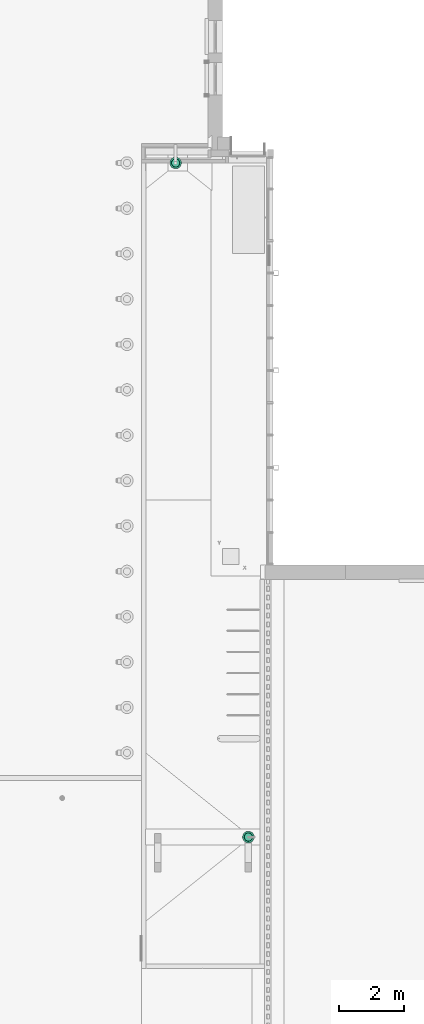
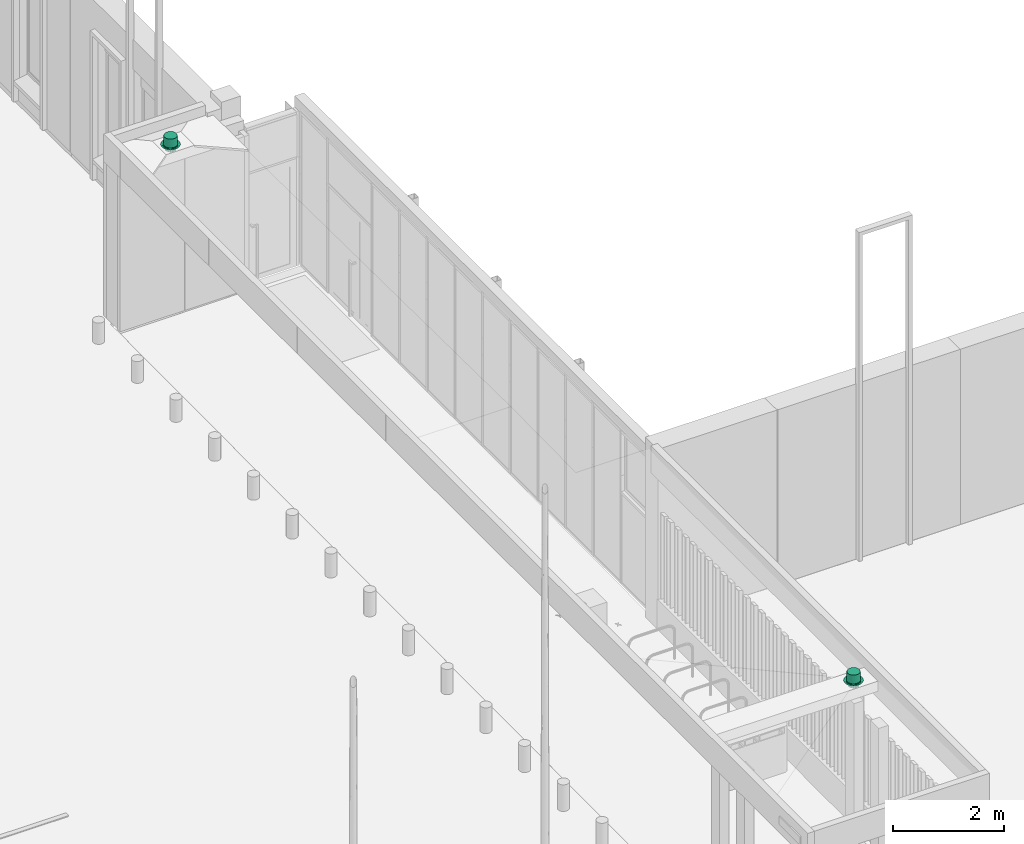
# One storey, part 74 of 77: 2 flow terminals.
"""IFC2X3 building model written with IfcOpenShell, lengths in millimetres."""

from ifc_helpers import new_model, entity, si_unit, converted_unit, derived_unit, direction, frame, origin, place, context, subcontext, project, spatial, faceted_brep, source, transform, mapped, material, material_list, element, save


model = new_model("IFC2X3")

# Units and contexts
model_context = context("Model", 3, precision=0.01, world=origin(), true_north=direction((6.12303176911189e-17, 1.0)))
body_context = subcontext(model_context, "Body", "Model", "MODEL_VIEW")
ifc_project = project(units=[si_unit("LENGTHUNIT", "METRE", prefix="MILLI"), si_unit("AREAUNIT", "SQUARE_METRE"), si_unit("VOLUMEUNIT", "CUBIC_METRE"), converted_unit("PLANEANGLEUNIT", "DEGREE", entity("IfcRatioMeasure", 0.0174532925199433), si_unit("PLANEANGLEUNIT", "RADIAN"), dimensions=[0, 0, 0, 0, 0, 0, 0]), si_unit("MASSUNIT", "GRAM", prefix="KILO"), derived_unit("MASSDENSITYUNIT", [(si_unit("MASSUNIT", "GRAM", prefix="KILO"), 1), (si_unit("LENGTHUNIT", "METRE"), -3)]), si_unit("TIMEUNIT", "SECOND"), si_unit("FREQUENCYUNIT", "HERTZ"), si_unit("THERMODYNAMICTEMPERATUREUNIT", "DEGREE_CELSIUS"), derived_unit("THERMALTRANSMITTANCEUNIT", [(si_unit("MASSUNIT", "GRAM", prefix="KILO"), 1), (si_unit("THERMODYNAMICTEMPERATUREUNIT", "KELVIN"), -1), (si_unit("TIMEUNIT", "SECOND"), -3)]), derived_unit("VOLUMETRICFLOWRATEUNIT", [(si_unit("LENGTHUNIT", "METRE"), 3), (si_unit("TIMEUNIT", "SECOND"), -1)]), si_unit("ELECTRICCURRENTUNIT", "AMPERE"), si_unit("ELECTRICVOLTAGEUNIT", "VOLT"), si_unit("POWERUNIT", "WATT"), si_unit("FORCEUNIT", "NEWTON", prefix="KILO"), si_unit("ILLUMINANCEUNIT", "LUX"), si_unit("LUMINOUSFLUXUNIT", "LUMEN"), si_unit("LUMINOUSINTENSITYUNIT", "CANDELA"), derived_unit("USERDEFINED", [(si_unit("MASSUNIT", "GRAM", prefix="KILO"), -1), (si_unit("LENGTHUNIT", "METRE"), -2), (si_unit("TIMEUNIT", "SECOND"), 3), (si_unit("LUMINOUSFLUXUNIT", "LUMEN"), 1)]), derived_unit("LINEARVELOCITYUNIT", [(si_unit("LENGTHUNIT", "METRE"), 1), (si_unit("TIMEUNIT", "SECOND"), -1)]), si_unit("PRESSUREUNIT", "PASCAL"), derived_unit("USERDEFINED", [(si_unit("LENGTHUNIT", "METRE"), -2), (si_unit("MASSUNIT", "GRAM", prefix="KILO"), 1), (si_unit("TIMEUNIT", "SECOND"), -2)])], contexts=[model_context])

# Site, building, storey
site_placement = place(None, origin())
site = spatial("IfcSite", under=ifc_project, at=site_placement, Name="Default", CompositionType="ELEMENT")
building_placement = place(site_placement, origin())
building = spatial("IfcBuilding", under=site, at=building_placement, CompositionType="ELEMENT")
storey_placement = place(building_placement, origin())
storey = spatial("IfcBuildingStorey", under=building, at=storey_placement, Name="1. KORRUS", CompositionType="ELEMENT", Elevation=0.0)

# Flow terminals
ifc_material_1 = material(Name="Platic-WATTS_Polyethylene")
ifc_material_2 = material(Name="Metal-WATTS-Cast Iron")
ifc_material_list_1 = material_list([ifc_material_1, ifc_material_2])
shared_shape = source(origin(), body_context, "Body", "Brep", [
    faceted_brep([(95.1434063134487, 109.801344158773, 0.0), (122.224043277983, 78.5486230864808, 0.0), (0.0, 0.0, 0.0), (60.3548164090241, 132.158613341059, 0.0), (139.402815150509, 40.9323597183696, 0.0), (145.288000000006, 0.0, 0.0), (139.40281515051, -40.9323597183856, 0.0), (122.224043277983, -78.5486230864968, 0.0), (95.1434063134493, -109.80134415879, 0.0), (60.3548164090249, -132.158613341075, 0.0), (20.676638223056, -143.809177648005, 0.0), (-20.6766382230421, -143.809177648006, 0.0), (-60.3548164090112, -132.158613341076, 0.0), (-95.1434063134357, -109.80134415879, 0.0), (-122.22404327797, -78.548623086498, 0.0), (-139.402815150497, -40.9323597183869, 0.0), (-145.287999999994, 0.0, 0.0), (-139.402815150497, 40.9323597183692, 0.0), (-122.22404327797, 78.5486230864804, 0.0), (-95.1434063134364, 109.801344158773, 0.0), (-60.354816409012, 132.158613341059, 0.0), (-20.676638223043, 143.809177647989, 0.0), (20.6766382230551, 143.809177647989, 0.0), (117.160652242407, 38.0678035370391, 193.64960000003), (0.0, 0.0, 193.649600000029), (123.190000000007, 0.0, 193.649600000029), (99.6628035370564, 72.4092652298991, 193.64960000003), (72.4092652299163, 99.6628035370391, 193.64960000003), (38.0678035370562, 117.160652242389, 193.649600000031), (0.0, 123.189999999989, 193.649600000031), (-38.0678035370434, 117.160652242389, 193.649600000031), (-72.4092652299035, 99.6628035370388, 193.649600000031), (-99.6628035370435, 72.4092652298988, 193.64960000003), (-117.160652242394, 38.0678035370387, 193.64960000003), (-123.189999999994, 0.0, 193.649600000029), (-117.160652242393, -38.0678035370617, 193.649600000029), (-99.662803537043, -72.4092652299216, 193.649600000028), (-72.4092652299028, -99.6628035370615, 193.649600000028), (-38.0678035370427, -117.160652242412, 193.649600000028), (0.0, -123.190000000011, 193.649600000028), (38.067803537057, -117.160652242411, 193.649600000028), (72.4092652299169, -99.6628035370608, 193.649600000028), (99.6628035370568, -72.4092652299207, 193.649600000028), (117.160652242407, -38.0678035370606, 193.649600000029), (-126.2424095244, 37.068115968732, 7.9248000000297), (-86.1613364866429, 99.4354829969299, 7.9248000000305), (-54.6569840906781, 119.682100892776, 7.92480000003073), (-110.685409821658, 71.1331936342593, 7.92480000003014), (-131.571999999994, 0.0, 7.92480000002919), (-18.7246479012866, 130.23278675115, 7.92480000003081), (18.7246479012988, 130.23278675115, 7.92480000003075), (54.6569840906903, 119.682100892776, 7.92480000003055), (110.68540982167, 71.1331936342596, 7.92480000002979), (86.1613364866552, 99.4354829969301, 7.92480000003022), (126.242409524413, 37.0681159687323, 7.92480000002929), (131.572000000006, 0.0, 7.92480000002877), (126.242409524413, -37.0681159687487, 7.92480000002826), (86.1613364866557, -99.4354829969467, 7.92480000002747), (110.685409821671, -71.1331936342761, 7.92480000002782), (54.656984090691, -119.682100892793, 7.92480000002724), (18.7246479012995, -130.232786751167, 7.92480000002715), (-18.7246479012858, -130.232786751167, 7.92480000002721), (-54.6569840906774, -119.682100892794, 7.92480000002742), (-110.685409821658, -71.133193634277, 7.92480000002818), (-86.1613364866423, -99.4354829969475, 7.92480000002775), (-126.2424095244, -37.0681159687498, 7.92480000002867), (139.402815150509, 40.9323597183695, 7.92480000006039), (145.288000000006, 0.0, 7.92480000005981), (122.224043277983, 78.5486230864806, 7.92480000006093), (95.1434063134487, 109.801344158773, 7.92480000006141), (60.3548164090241, 132.158613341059, 7.92480000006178), (20.6766382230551, 143.809177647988, 7.924800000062), (-20.676638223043, 143.809177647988, 7.92480000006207), (-60.354816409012, 132.158613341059, 7.92480000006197), (-95.1434063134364, 109.801344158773, 7.92480000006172), (-122.22404327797, 78.5486230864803, 7.92480000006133), (-139.402815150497, 40.9323597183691, 7.92480000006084), (-145.287999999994, 0.0, 7.92480000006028), (-139.402815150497, -40.932359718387, 7.92480000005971), (-122.22404327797, -78.5486230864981, 7.92480000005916), (-95.1434063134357, -109.801344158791, 7.92480000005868), (-60.3548164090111, -132.158613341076, 7.92480000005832), (-20.6766382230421, -143.809177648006, 7.92480000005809), (20.676638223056, -143.809177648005, 7.92480000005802), (60.354816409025, -132.158613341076, 7.92480000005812), (95.1434063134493, -109.80134415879, 7.92480000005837), (122.224043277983, -78.548623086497, 7.92480000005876), (139.40281515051, -40.9323597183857, 7.92480000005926)], [[[0, 1, 2]], [[0, 2, 3]], [[4, 2, 1]], [[2, 4, 5]], [[5, 6, 2]], [[2, 6, 7]], [[2, 7, 8]], [[2, 8, 9]], [[9, 10, 2]], [[11, 2, 10]], [[2, 11, 12]], [[2, 12, 13]], [[14, 2, 13]], [[2, 14, 15]], [[15, 16, 2]], [[2, 16, 17]], [[2, 17, 18]], [[18, 19, 2]], [[19, 20, 2]], [[21, 2, 20]], [[2, 21, 22]], [[22, 3, 2]], [[23, 24, 25]], [[26, 24, 23]], [[26, 27, 24]], [[28, 24, 27]], [[28, 29, 24]], [[24, 29, 30]], [[30, 31, 24]], [[24, 31, 32]], [[32, 33, 24]], [[33, 34, 24]], [[34, 35, 24]], [[36, 24, 35]], [[36, 37, 24]], [[37, 38, 24]], [[39, 24, 38]], [[24, 39, 40]], [[40, 41, 24]], [[41, 42, 24]], [[42, 43, 24]], [[24, 43, 25]], [[44, 34, 33]], [[45, 32, 31]], [[46, 31, 30]], [[47, 33, 32]], [[34, 44, 48]], [[44, 33, 47]], [[32, 45, 47]], [[31, 46, 45]], [[30, 49, 46]], [[30, 29, 49]], [[50, 29, 28]], [[27, 51, 28]], [[52, 26, 23]], [[27, 26, 53]], [[54, 23, 25]], [[28, 51, 50]], [[27, 53, 51]], [[52, 53, 26]], [[23, 54, 52]], [[25, 55, 54]], [[29, 50, 49]], [[56, 25, 43]], [[57, 42, 41]], [[43, 42, 58]], [[59, 41, 40]], [[25, 56, 55]], [[43, 58, 56]], [[57, 58, 42]], [[41, 59, 57]], [[40, 60, 59]], [[40, 39, 60]], [[61, 39, 38]], [[37, 62, 38]], [[63, 36, 35]], [[37, 36, 64]], [[65, 35, 34]], [[38, 62, 61]], [[37, 64, 62]], [[63, 64, 36]], [[35, 65, 63]], [[34, 48, 65]], [[39, 61, 60]], [[66, 55, 67]], [[54, 55, 66]], [[66, 68, 54]], [[68, 52, 54]], [[69, 52, 68]], [[52, 69, 53]], [[70, 53, 69]], [[51, 53, 70]], [[70, 71, 51]], [[71, 50, 51]], [[49, 50, 71]], [[71, 72, 49]], [[72, 46, 49]], [[73, 46, 72]], [[46, 73, 45]], [[74, 45, 73]], [[47, 45, 74]], [[74, 75, 47]], [[75, 44, 47]], [[76, 44, 75]], [[44, 76, 48]], [[76, 77, 48]], [[77, 78, 48]], [[65, 48, 78]], [[78, 79, 65]], [[65, 79, 63]], [[80, 63, 79]], [[63, 80, 64]], [[64, 80, 81]], [[62, 64, 81]], [[81, 82, 62]], [[62, 82, 61]], [[83, 61, 82]], [[61, 83, 60]], [[60, 83, 59]], [[84, 59, 83]], [[59, 84, 57]], [[57, 84, 85]], [[58, 57, 85]], [[85, 86, 58]], [[58, 86, 56]], [[87, 56, 86]], [[55, 87, 67]], [[56, 87, 55]], [[76, 17, 16, 77]], [[75, 18, 17, 76]], [[19, 74, 73, 20]], [[75, 74, 19, 18]], [[20, 73, 72, 21]], [[72, 71, 22, 21]], [[70, 69, 0, 3]], [[71, 70, 3, 22]], [[4, 1, 68, 66]], [[69, 68, 1, 0]], [[67, 5, 4, 66]], [[87, 6, 5, 67]], [[86, 7, 6, 87]], [[8, 85, 84, 9]], [[86, 85, 8, 7]], [[9, 84, 83, 10]], [[83, 82, 11, 10]], [[81, 12, 11, 82]], [[80, 13, 12, 81]], [[14, 79, 78, 15]], [[80, 79, 14, 13]], [[15, 78, 77, 16]]]),
    faceted_brep([(-173.213682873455, 46.412466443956, 0.0), (-173.213682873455, 46.4124664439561, -7.92480000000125), (-179.323999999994, 0.0, -7.92480000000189), (-179.323999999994, 0.0, 0.0), (-155.299139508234, 89.6619999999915, 0.0), (-155.299139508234, 89.6619999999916, -7.92480000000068), (-89.6619999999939, 155.299139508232, -7.92479999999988), (-126.80121642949, 126.801216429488, -7.92480000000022), (-126.80121642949, 126.801216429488, 0.0), (-89.6619999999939, 155.299139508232, 0.0), (-46.4124664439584, 173.213682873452, -7.9247999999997), (-46.4124664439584, 173.213682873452, 0.0), (0.0, 179.323999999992, -7.9247999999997), (0.0, 179.323999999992, 0.0), (46.4124664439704, 173.213682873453, 0.0), (46.4124664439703, 173.213682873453, -7.92479999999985), (155.299139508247, 89.6619999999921, -7.92480000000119), (155.299139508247, 89.661999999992, 0.0), (173.213682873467, 46.4124664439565, 0.0), (173.213682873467, 46.4124664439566, -7.92480000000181), (126.801216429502, 126.801216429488, -7.92480000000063), (126.801216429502, 126.801216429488, 0.0), (179.324000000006, 0.0, 0.0), (179.324000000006, 0.0, -7.92480000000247), (89.6620000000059, 155.299139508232, 0.0), (89.6620000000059, 155.299139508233, -7.92480000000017), (173.213682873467, -46.4124664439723, 0.0), (173.213682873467, -46.4124664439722, -7.9248000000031), (155.299139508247, -89.6620000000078, 0.0), (155.299139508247, -89.6620000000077, -7.92480000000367), (89.6620000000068, -155.299139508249, -7.92480000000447), (126.801216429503, -126.801216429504, -7.92480000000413), (126.801216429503, -126.801216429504, 0.0), (89.6620000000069, -155.299139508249, 0.0), (46.4124664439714, -173.213682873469, -7.92480000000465), (46.4124664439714, -173.213682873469, 0.0), (0.0, -179.324000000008, -7.92480000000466), (0.0, -179.324000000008, 0.0), (-46.4124664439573, -173.21368287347, 0.0), (-46.4124664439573, -173.213682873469, -7.9248000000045), (-89.6619999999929, -155.29913950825, 0.0), (-89.6619999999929, -155.299139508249, -7.92480000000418), (-155.299139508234, -89.6620000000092, -7.92480000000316), (-126.801216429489, -126.801216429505, -7.92480000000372), (-126.801216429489, -126.801216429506, 0.0), (-155.299139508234, -89.6620000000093, 0.0), (-173.213682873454, -46.412466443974, -7.92480000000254), (-173.213682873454, -46.4124664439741, 0.0), (157.175200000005, 0.0, -7.92480000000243), (151.819584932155, -40.6799351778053, -7.92480000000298), (136.117716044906, -78.5876000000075, -7.92480000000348), (111.139649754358, -111.139649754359, -7.92480000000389), (78.5876000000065, -136.117716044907, -7.92480000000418), (40.6799351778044, -151.819584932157, -7.92480000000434), (0.0, -157.175200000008, -7.92480000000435), (-40.6799351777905, -151.819584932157, -7.92480000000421), (-78.5875999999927, -136.117716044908, -7.92480000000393), (-111.139649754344, -111.13964975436, -7.92480000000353), (-136.117716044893, -78.5876000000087, -7.92480000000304), (-151.819584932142, -40.6799351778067, -7.92480000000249), (-157.175199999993, 0.0, -7.92480000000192), (-151.819584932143, 40.6799351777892, -7.92480000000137), (-136.117716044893, 78.5875999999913, -7.92480000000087), (-111.139649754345, 111.139649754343, -7.92480000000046), (-78.5875999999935, 136.117716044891, -7.92480000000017), (-40.6799351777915, 151.81958493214, -7.92480000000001), (0.0, 157.175199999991, -7.9248), (40.6799351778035, 151.819584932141, -7.92480000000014), (78.5876000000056, 136.117716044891, -7.92480000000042), (111.139649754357, 111.139649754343, -7.92480000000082), (136.117716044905, 78.5875999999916, -7.92480000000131), (151.819584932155, 40.6799351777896, -7.92480000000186), (-136.117716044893, 78.5875999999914, -16.6624000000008), (-151.819584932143, 40.6799351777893, -16.6624000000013), (-157.175199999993, 0.0, -16.6624000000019), (-40.6799351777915, 151.819584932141, -16.6624), (-78.5875999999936, 136.117716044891, -16.6624000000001), (-111.139649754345, 111.139649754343, -16.6624000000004), (0.0, 157.175199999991, -16.6624), (78.5876000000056, 136.117716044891, -16.6624000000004), (40.6799351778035, 151.819584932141, -16.6624000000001), (136.117716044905, 78.5875999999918, -16.6624000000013), (111.139649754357, 111.139649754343, -16.6624000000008), (151.819584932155, 40.6799351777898, -16.6624000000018), (157.175200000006, 0.0, -16.6624000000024), (136.117716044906, -78.5876000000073, -16.6624000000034), (151.819584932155, -40.6799351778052, -16.6624000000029), (40.6799351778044, -151.819584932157, -16.6624000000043), (78.5876000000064, -136.117716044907, -16.6624000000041), (111.139649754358, -111.139649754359, -16.6624000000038), (0.0, -157.175200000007, -16.6624000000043), (-111.139649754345, -111.13964975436, -16.6624000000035), (-78.5875999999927, -136.117716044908, -16.6624000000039), (-40.6799351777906, -151.819584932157, -16.6624000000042), (-151.819584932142, -40.6799351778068, -16.6624000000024), (-136.117716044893, -78.5876000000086, -16.662400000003), (103.987600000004, 0.0, -16.6624000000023), (97.716380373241, 35.5658538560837, -16.6624000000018), (97.7163803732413, -35.5658538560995, -16.6624000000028), (79.659123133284, -66.8419408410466, -16.6624000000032), (51.9938000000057, -90.055903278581, -16.6624000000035), (18.0572572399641, -102.407794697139, -16.6624000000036), (-18.0572572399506, -102.407794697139, -16.6624000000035), (-51.9937999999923, -90.0559032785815, -16.6624000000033), (-79.6591231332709, -66.8419408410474, -16.6624000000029), (-97.7163803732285, -35.5658538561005, -16.6624000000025), (-103.987599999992, 0.0, -16.662400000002), (-97.7163803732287, 35.5658538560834, -16.6624000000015), (-79.6591231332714, 66.8419408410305, -16.6624000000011), (-51.9937999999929, 90.0559032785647, -16.6624000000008), (-18.0572572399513, 102.407794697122, -16.6624000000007), (18.0572572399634, 102.407794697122, -16.6624000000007), (51.9938000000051, 90.0559032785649, -16.662400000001), (79.6591231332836, 66.8419408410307, -16.6624000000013), (-97.7163803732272, 35.5658538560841, -109.52479999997), (-103.98759999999, 0.0, -109.524799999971), (-18.0572572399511, 102.407794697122, -109.52479999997), (-51.9937999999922, 90.0559032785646, -109.52479999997), (-79.6591231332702, 66.8419408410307, -109.52479999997), (18.0572572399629, 102.407794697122, -109.52479999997), (51.9938000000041, 90.0559032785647, -109.52479999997), (79.6591231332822, 66.8419408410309, -109.52479999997), (97.7163803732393, 35.5658538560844, -109.524799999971), (103.987600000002, 0.0, -109.524799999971), (97.7163803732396, -35.5658538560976, -109.524799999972), (79.6591231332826, -66.8419408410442, -109.524799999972), (51.9938000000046, -90.0559032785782, -109.524799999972), (18.0572572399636, -102.407794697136, -109.524799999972), (-18.0572572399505, -102.407794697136, -109.524799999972), (-51.9937999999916, -90.0559032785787, -109.524799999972), (-79.6591231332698, -66.841940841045, -109.524799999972), (-97.716380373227, -35.5658538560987, -109.524799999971), (29.7180000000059, 0.0, -109.524799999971), (26.8801835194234, 8.73390106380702, -109.524799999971), (24.0423670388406, 17.4678021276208, -109.524799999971), (26.8801835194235, -8.73390106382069, -109.524799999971), (24.0423670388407, -17.4678021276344, -109.524799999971), (16.6128670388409, -22.8656498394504, -109.524799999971), (9.18336703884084, -28.2634975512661, -109.524799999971), (0.0, -28.2634975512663, -109.524799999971), (-9.1833670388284, -28.2634975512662, -109.524799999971), (-16.6128670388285, -22.8656498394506, -109.524799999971), (-24.0423670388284, -17.4678021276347, -109.524799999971), (-26.8801835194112, -8.73390106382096, -109.524799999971), (-29.7179999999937, 0.0, -109.524799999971), (-26.8801835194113, 8.73390106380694, -109.524799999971), (-24.0423670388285, 17.4678021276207, -109.524799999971), (-16.6128670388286, 22.8656498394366, -109.524799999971), (-9.18336703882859, 28.2634975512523, -109.524799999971), (0.0, 28.2634975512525, -109.52479999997), (9.18336703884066, 28.2634975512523, -109.524799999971), (16.6128670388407, 22.8656498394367, -109.524799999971), (-24.0423670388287, 17.4678021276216, -166.674799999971), (-27.0924949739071, 8.08047359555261, -166.674799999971), (-29.717999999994, 0.0, -166.674799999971), (9.18336703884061, 28.2634975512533, -166.67479999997), (24.0423670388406, 17.4678021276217, -166.674799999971), (16.6128670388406, 22.8656498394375, -166.674799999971), (-9.18336703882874, 28.2634975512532, -166.67479999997), (-16.6128670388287, 22.8656498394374, -166.674799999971), (0.0, 28.2634975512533, -166.67479999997), (27.0924950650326, 8.08047331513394, -166.674799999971), (29.718000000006, 0.0, -166.674799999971), (24.0423670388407, -17.4678021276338, -166.674799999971), (9.18336703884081, -28.2634975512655, -166.674799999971), (16.6128670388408, -22.8656498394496, -166.674799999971), (26.8801835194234, -8.73390106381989, -166.674799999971), (-27.0924950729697, -8.0804732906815, -166.674799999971), (-24.0423670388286, -17.467802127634, -166.674799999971), (-9.18336703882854, -28.2634975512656, -166.674799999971), (0.0, -28.2634975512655, -166.674799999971), (-16.6128670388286, -22.8656498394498, -166.674799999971), (0.0, 0.0, -166.674799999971), (0.0, 0.0, 0.0)], [[[0, 1, 2, 3]], [[4, 5, 1, 0]], [[6, 7, 8, 9]], [[4, 8, 7, 5]], [[10, 6, 9, 11]], [[12, 10, 11, 13]], [[13, 14, 15, 12]], [[16, 17, 18, 19]], [[17, 16, 20, 21]], [[19, 18, 22, 23]], [[15, 14, 24, 25]], [[24, 21, 20, 25]], [[26, 27, 23, 22]], [[28, 29, 27, 26]], [[30, 31, 32, 33]], [[28, 32, 31, 29]], [[34, 30, 33, 35]], [[36, 34, 35, 37]], [[38, 39, 36, 37]], [[40, 41, 39, 38]], [[42, 43, 44, 45]], [[40, 44, 43, 41]], [[46, 47, 3, 2]], [[46, 42, 45, 47]], [[23, 48, 19]], [[23, 27, 48]], [[48, 27, 49]], [[29, 49, 27]], [[50, 49, 29]], [[31, 50, 29]], [[50, 31, 51]], [[51, 31, 30]], [[51, 30, 52]], [[52, 30, 34]], [[34, 53, 52]], [[36, 53, 34]], [[53, 36, 54]], [[55, 54, 36]], [[36, 39, 55]], [[55, 39, 56]], [[41, 56, 39]], [[57, 56, 41]], [[57, 41, 43]], [[57, 43, 58]], [[43, 42, 58]], [[59, 58, 42]], [[46, 59, 42]], [[46, 60, 59]], [[2, 60, 46]], [[60, 2, 1]], [[60, 1, 61]], [[5, 61, 1]], [[62, 61, 5]], [[62, 5, 7]], [[7, 63, 62]], [[63, 7, 6]], [[6, 64, 63]], [[64, 6, 10]], [[10, 65, 64]], [[12, 65, 10]], [[12, 66, 65]], [[12, 67, 66]], [[67, 12, 15]], [[68, 67, 15]], [[68, 15, 25]], [[25, 69, 68]], [[20, 69, 25]], [[69, 20, 70]], [[16, 70, 20]], [[16, 71, 70]], [[71, 16, 19]], [[19, 48, 71]], [[61, 62, 72, 73]], [[60, 61, 73, 74]], [[64, 65, 75, 76]], [[63, 64, 76, 77]], [[62, 63, 77, 72]], [[78, 75, 65, 66]], [[79, 80, 67, 68]], [[80, 78, 66, 67]], [[70, 81, 82, 69]], [[79, 68, 69, 82]], [[81, 70, 71, 83]], [[84, 83, 71, 48]], [[49, 50, 85, 86]], [[48, 49, 86, 84]], [[52, 53, 87, 88]], [[51, 52, 88, 89]], [[50, 51, 89, 85]], [[90, 87, 53, 54]], [[56, 57, 91, 92]], [[55, 56, 92, 93]], [[59, 60, 74, 94]], [[58, 59, 94, 95]], [[57, 58, 95, 91]], [[55, 93, 90, 54]], [[83, 84, 96]], [[96, 97, 83]], [[83, 97, 81]], [[96, 84, 86]], [[98, 96, 86]], [[98, 86, 85]], [[99, 98, 85]], [[85, 89, 99]], [[89, 100, 99]], [[89, 88, 100]], [[87, 100, 88]], [[100, 87, 101]], [[101, 87, 90]], [[90, 102, 101]], [[90, 93, 102]], [[102, 93, 103]], [[92, 103, 93]], [[103, 92, 91]], [[103, 91, 104]], [[104, 91, 95]], [[105, 104, 95]], [[94, 105, 95]], [[106, 105, 94]], [[94, 74, 106]], [[73, 106, 74]], [[107, 106, 73]], [[107, 73, 72]], [[108, 107, 72]], [[108, 72, 77]], [[77, 109, 108]], [[109, 77, 76]], [[109, 76, 75]], [[75, 110, 109]], [[78, 110, 75]], [[110, 78, 111]], [[80, 111, 78]], [[112, 111, 80]], [[112, 80, 79]], [[82, 112, 79]], [[82, 81, 113]], [[113, 112, 82]], [[81, 97, 113]], [[114, 115, 106, 107]], [[109, 110, 116, 117]], [[107, 108, 118, 114]], [[109, 117, 118, 108]], [[110, 111, 119, 116]], [[119, 111, 112, 120]], [[121, 113, 97, 122]], [[112, 113, 121, 120]], [[122, 97, 96, 123]], [[124, 123, 96, 98]], [[125, 99, 100, 126]], [[98, 99, 125, 124]], [[126, 100, 101, 127]], [[101, 102, 128, 127]], [[128, 102, 103, 129]], [[130, 104, 105, 131]], [[103, 104, 130, 129]], [[131, 105, 106, 115]], [[122, 123, 132]], [[122, 132, 133]], [[122, 133, 134]], [[122, 134, 121]], [[123, 124, 132]], [[124, 135, 132]], [[124, 136, 135]], [[136, 124, 125]], [[136, 125, 126]], [[126, 137, 136]], [[126, 138, 137]], [[138, 126, 127]], [[127, 128, 138]], [[128, 139, 138]], [[128, 140, 139]], [[140, 128, 129]], [[129, 141, 140]], [[129, 142, 141]], [[129, 130, 142]], [[131, 142, 130]], [[131, 143, 142]], [[131, 144, 143]], [[115, 144, 131]], [[115, 114, 144]], [[114, 145, 144]], [[114, 146, 145]], [[114, 118, 146]], [[118, 117, 146]], [[117, 147, 146]], [[117, 148, 147]], [[116, 148, 117]], [[116, 149, 148]], [[116, 150, 149]], [[150, 116, 119]], [[150, 119, 120]], [[120, 134, 151]], [[121, 134, 120]], [[120, 151, 150]], [[152, 153, 154, 144, 145, 146]], [[155, 150, 151, 134, 156, 157]], [[148, 158, 159, 152, 146, 147]], [[160, 158, 148, 149, 150, 155]], [[161, 156, 134, 133, 132, 162]], [[163, 136, 137, 138, 164, 165]], [[166, 162, 132, 135, 136, 163]], [[144, 154, 167, 168, 142, 143]], [[164, 138, 139, 140, 169, 170]], [[171, 169, 140, 141, 142, 168]], [[172, 155, 157]], [[172, 157, 156]], [[172, 156, 161]], [[172, 161, 162]], [[172, 162, 166]], [[172, 160, 155]], [[172, 158, 160]], [[172, 159, 158]], [[172, 152, 159]], [[172, 153, 152]], [[172, 154, 153]], [[172, 166, 163]], [[172, 163, 165]], [[172, 165, 164]], [[172, 164, 170]], [[172, 167, 154]], [[172, 168, 167]], [[172, 171, 168]], [[172, 169, 171]], [[172, 170, 169]], [[18, 173, 22]], [[17, 173, 18]], [[21, 173, 17]], [[24, 173, 21]], [[24, 14, 173]], [[14, 13, 173]], [[13, 11, 173]], [[9, 173, 11]], [[8, 173, 9]], [[4, 173, 8]], [[4, 0, 173]], [[0, 3, 173]], [[173, 3, 47]], [[47, 45, 173]], [[44, 173, 45]], [[44, 40, 173]], [[40, 38, 173]], [[37, 173, 38]], [[173, 37, 35]], [[35, 33, 173]], [[32, 173, 33]], [[173, 32, 28]], [[173, 28, 26]], [[173, 26, 22]]]),
])
flow_terminal_1_placement = place(storey_placement, frame((-1450.0, 12400.0, 3775.0), z_axis=(0.0, 0.0, 1.0), x_axis=(-1.0, 0.0, 0.0)))
element("IfcFlowTerminal", 1, at=flow_terminal_1_placement, inside=storey, material=ifc_material_list_1, Name="Varikatuse trapp:trapp", ObjectType="trapp", context=body_context, shape_type="MappedRepresentation", body=[
    mapped(shared_shape, transform((0.0, 0.0, 0.0), scale=1.0)),
])
ifc_material_list_2 = material_list([ifc_material_1, ifc_material_2])
flow_terminal_2_placement = place(storey_placement, frame((796.380774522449, -8400.0, 3775.0), z_axis=(0.0, 0.0, 1.0), x_axis=(-1.0, 0.0, 0.0)))
element("IfcFlowTerminal", 2, at=flow_terminal_2_placement, inside=storey, material=ifc_material_list_2, Name="Varikatuse trapp:trapp", ObjectType="trapp", context=body_context, shape_type="MappedRepresentation", body=[
    mapped(shared_shape, transform((0.0, 0.0, 0.0), scale=1.0)),
])

save(model, "model.ifc")
